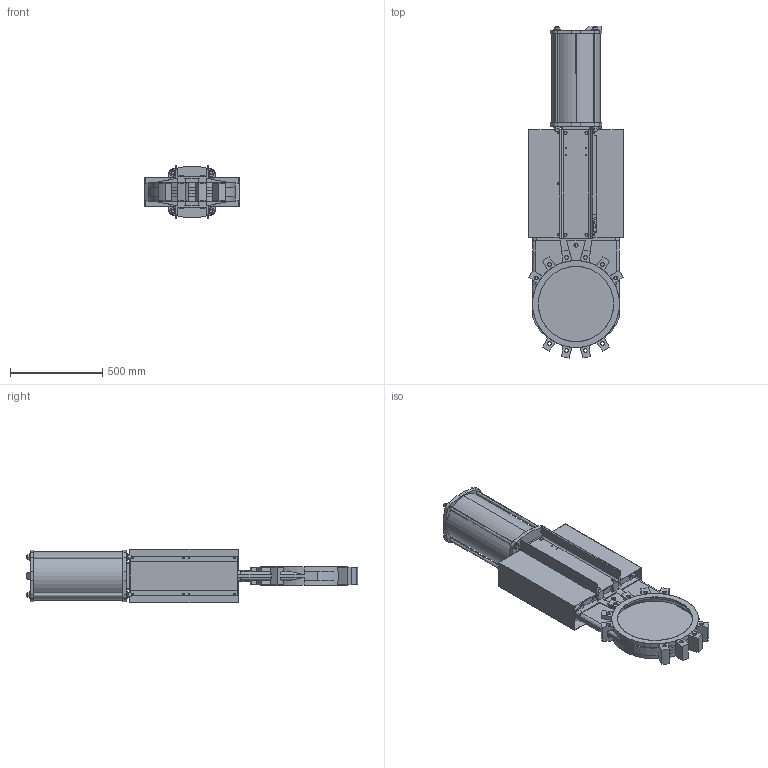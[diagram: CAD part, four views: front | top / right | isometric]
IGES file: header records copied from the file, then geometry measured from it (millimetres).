
Start section: SolidWorks IGES file using analytic representation for surfaces
Global section: file name: D:\part\3D Projects\VG-PNEUMATIC ACTUATOR(DN50-600)\VG P DN400\VG P DN400.IGS; native system: SolidWorks 2009; preprocessor: SolidWorks 2009; author: zhixin.zheng; date: 100129.141908; units: millimetre
Bounding box: 514 x 1801.13 x 290 mm (x, y, z)
Surface area: 4556618.3 mm2 (no closed solid volume)
Topology: 0 solids, 0 shells, 1352 faces, 14645 edges, 14645 vertices
Faces by surface type: bspline 871, revolution 481
